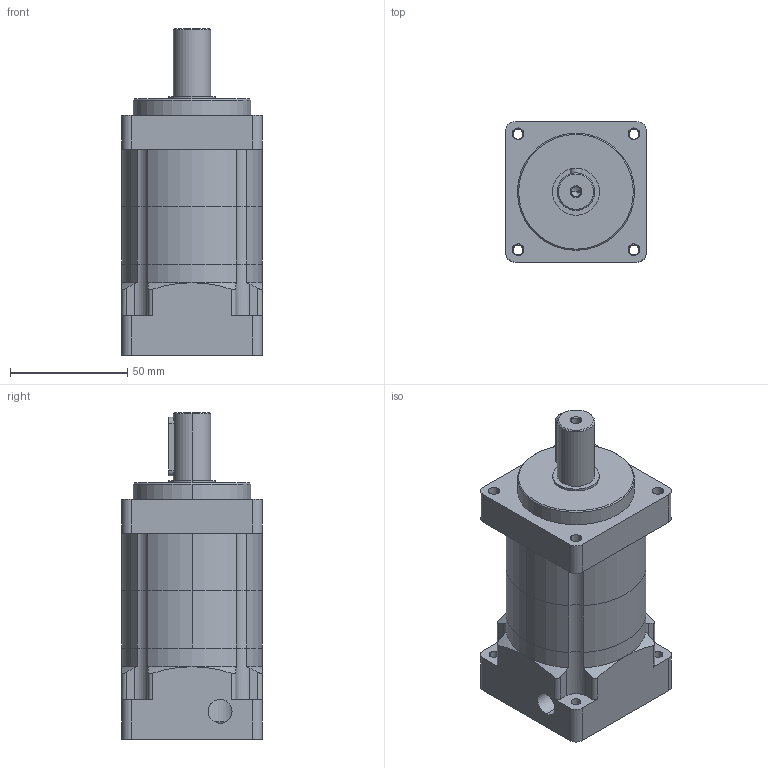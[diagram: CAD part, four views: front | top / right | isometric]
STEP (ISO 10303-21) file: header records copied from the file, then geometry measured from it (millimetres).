
FILE_DESCRIPTION (( 'STEP AP203' ), '1' );
FILE_NAME ('SL-060-025.STEP', '2010-05-19T15:46:43', ( 'render' ), ( '' ), 'SwSTEP 2.0', 'SolidWorks 2009', '' );
FILE_SCHEMA (( 'CONFIG_CONTROL_DESIGN' ));
Length unit declared in the file: millimetre
Products named in the file (1): SL-060-025
Bounding box: 60 x 60 x 139.5 mm (x, y, z)
Volume: 310339.1 mm3; surface area: 62611.1 mm2
Topology: 6 solids, 6 shells, 145 faces, 365 edges, 238 vertices
Faces by surface type: cylinder 85, plane 44, cone 8, sphere 8
Entity records: 4805 total; most frequent: CARTESIAN_POINT 1090, DIRECTION 812, ORIENTED_EDGE 726, EDGE_CURVE 363, AXIS2_PLACEMENT_3D 326, VERTEX_POINT 238, CIRCLE 180, EDGE_LOOP 173
